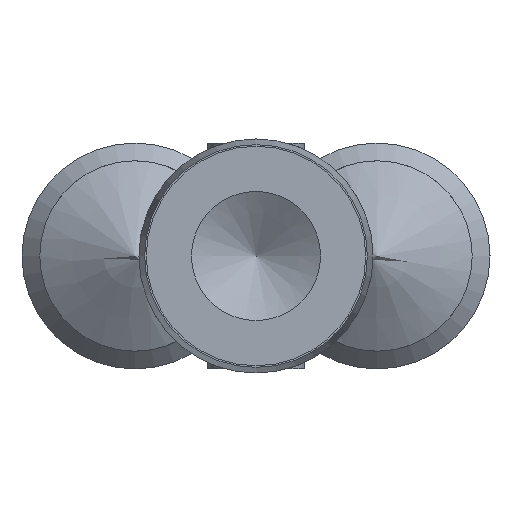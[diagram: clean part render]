
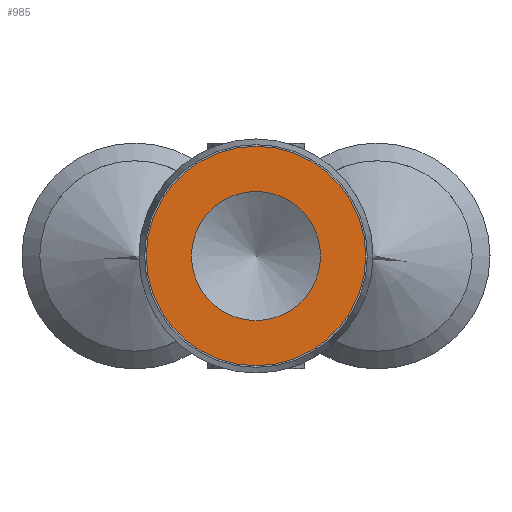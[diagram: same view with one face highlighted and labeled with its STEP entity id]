
A CAD part, left-side view. The second image highlights one B-rep face of the part: STEP entity #985.
In plain terms, the highlighted planar face has unit normal (-1, 0, 0).
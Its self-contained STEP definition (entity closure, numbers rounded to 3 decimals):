
#147=CARTESIAN_POINT('',(-23.0,-4.0,0.));
#148=VERTEX_POINT('',#147);
#149=CARTESIAN_POINT('',(-23.0,0.0,0.0));
#150=DIRECTION('',(1.0,0.0,0.0));
#151=DIRECTION('',(0.0,1.0,0.0));
#152=AXIS2_PLACEMENT_3D('',#149,#150,#151);
#153=CIRCLE('',#152,4.0);
#154=EDGE_CURVE('',#148,#148,#153,.T.);
#966=CARTESIAN_POINT('',(-23.0,3.4,0.0));
#967=DIRECTION('',(-1.0,0.0,0.0));
#968=DIRECTION('',(0.0,0.0,1.0));
#969=AXIS2_PLACEMENT_3D('',#966,#967,#968);
#970=PLANE('',#969);
#971=CARTESIAN_POINT('',(-23.0,6.8,0.0));
#972=VERTEX_POINT('',#971);
#973=CARTESIAN_POINT('',(-23.0,0.0,0.0));
#974=DIRECTION('',(1.0,0.0,0.0));
#975=DIRECTION('',(0.0,1.0,0.0));
#976=AXIS2_PLACEMENT_3D('',#973,#974,#975);
#977=CIRCLE('',#976,6.8);
#978=EDGE_CURVE('',#972,#972,#977,.T.);
#979=ORIENTED_EDGE('',*,*,#978,.F.);
#980=EDGE_LOOP('',(#979));
#981=FACE_OUTER_BOUND('',#980,.T.);
#982=ORIENTED_EDGE('',*,*,#154,.T.);
#983=EDGE_LOOP('',(#982));
#984=FACE_BOUND('',#983,.T.);
#985=ADVANCED_FACE('',(#981,#984),#970,.T.);
